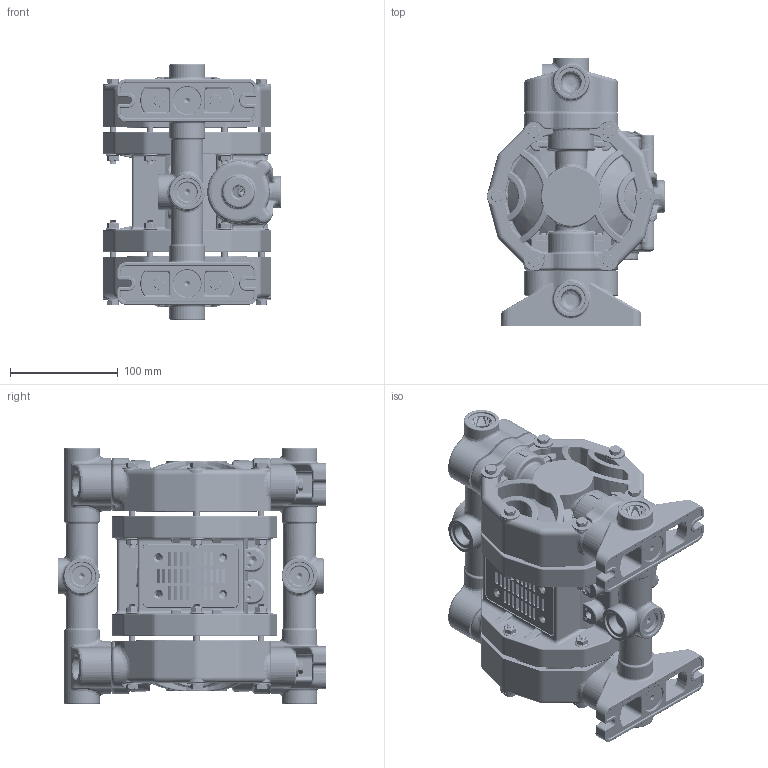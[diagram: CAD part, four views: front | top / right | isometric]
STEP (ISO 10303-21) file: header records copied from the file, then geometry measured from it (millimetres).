
FILE_DESCRIPTION (( 'STEP AP203' ), '1' );
FILE_NAME ('P60 Assieme-Plastic-AB.STEP', '2019-11-04T07:36:57', ( 'User' ), ( 'Hewlett-Packard Company' ), 'SwSTEP 2.0', 'SolidWorks 2018', '' );
FILE_SCHEMA (( 'CONFIG_CONTROL_DESIGN' ));
Products named in the file (1): P60 Assieme-Plastic-AB
Bounding box: 165.16 x 249.45 x 238 mm (x, y, z)
Volume: 2978706.5 mm3; surface area: 623308.4 mm2
Topology: 67 solids, 73 shells, 11797 faces, 26519 edges, 14610 vertices
Faces by surface type: cylinder 3197, torus 2722, cone 2112, bspline 1810, plane 1500, sphere 456
Entity records: 447595 total; most frequent: CARTESIAN_POINT 196828, DIRECTION 54892, ORIENTED_EDGE 52166, EDGE_CURVE 26083, AXIS2_PLACEMENT_3D 23654, VERTEX_POINT 14540, CIRCLE 13666, EDGE_LOOP 12171
